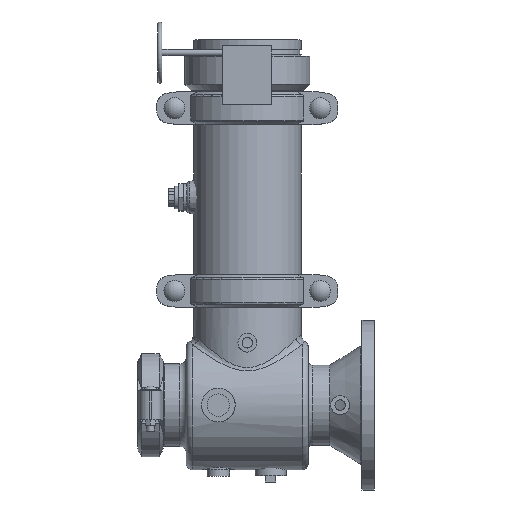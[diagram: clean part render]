
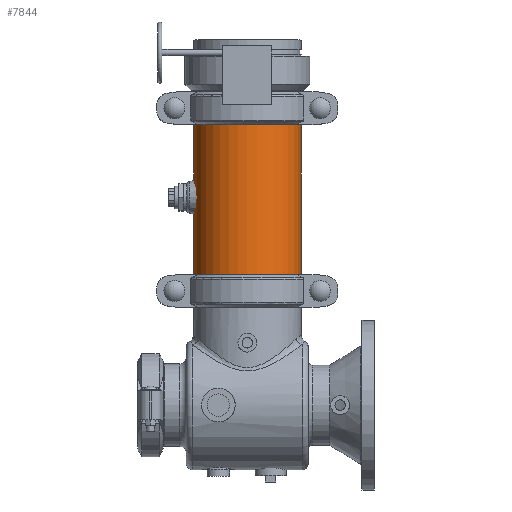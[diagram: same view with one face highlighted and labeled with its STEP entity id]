
A CAD part, top view. The second image highlights one B-rep face of the part: STEP entity #7844.
In plain terms, the highlighted cylindrical face has radius 109.537 mm (diameter 219.075 mm), a full revolution.
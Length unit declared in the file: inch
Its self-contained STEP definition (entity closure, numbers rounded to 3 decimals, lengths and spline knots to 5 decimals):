
#737=FACE_OUTER_BOUND('',#1220,.T.);
#1220=EDGE_LOOP('',(#5845,#5846,#5847,#5848,#5849,#5850));
#1730=CIRCLE('',#8669,4.3125);
#1731=CIRCLE('',#8670,4.3125);
#1732=CIRCLE('',#8672,4.3125);
#1733=CIRCLE('',#8673,4.3125);
#2162=LINE('',#13840,#2700);
#2700=VECTOR('',#10199,4.3125);
#3369=VERTEX_POINT('',#13831);
#3370=VERTEX_POINT('',#13832);
#3371=VERTEX_POINT('',#13836);
#3372=VERTEX_POINT('',#13837);
#4262=EDGE_CURVE('',#3369,#3370,#1730,.T.);
#4263=EDGE_CURVE('',#3370,#3369,#1731,.T.);
#4264=EDGE_CURVE('',#3371,#3372,#1732,.T.);
#4265=EDGE_CURVE('',#3372,#3371,#1733,.T.);
#4266=EDGE_CURVE('',#3372,#3370,#2162,.T.);
#5845=ORIENTED_EDGE('',*,*,#4264,.F.);
#5846=ORIENTED_EDGE('',*,*,#4265,.F.);
#5847=ORIENTED_EDGE('',*,*,#4266,.T.);
#5848=ORIENTED_EDGE('',*,*,#4263,.T.);
#5849=ORIENTED_EDGE('',*,*,#4262,.T.);
#5850=ORIENTED_EDGE('',*,*,#4266,.F.);
#7158=CYLINDRICAL_SURFACE('',#8671,4.3125);
#7844=ADVANCED_FACE('',(#737),#7158,.T.);
#8669=AXIS2_PLACEMENT_3D('',#13833,#10189,#10190);
#8670=AXIS2_PLACEMENT_3D('',#13834,#10191,#10192);
#8671=AXIS2_PLACEMENT_3D('',#13835,#10193,#10194);
#8672=AXIS2_PLACEMENT_3D('',#13838,#10195,#10196);
#8673=AXIS2_PLACEMENT_3D('',#13839,#10197,#10198);
#10189=DIRECTION('center_axis',(0.,-1.,0.));
#10190=DIRECTION('ref_axis',(1.,0.,0.));
#10191=DIRECTION('center_axis',(0.,-1.,0.));
#10192=DIRECTION('ref_axis',(1.,0.,0.));
#10193=DIRECTION('center_axis',(0.,-1.,0.));
#10194=DIRECTION('ref_axis',(1.,0.,0.));
#10195=DIRECTION('center_axis',(0.,-1.,0.));
#10196=DIRECTION('ref_axis',(1.,0.,0.));
#10197=DIRECTION('center_axis',(0.,-1.,0.));
#10198=DIRECTION('ref_axis',(1.,0.,0.));
#10199=DIRECTION('',(0.,1.,0.));
#13831=CARTESIAN_POINT('',(4.3125,6.002,0.));
#13832=CARTESIAN_POINT('',(-4.3125,6.002,0.));
#13833=CARTESIAN_POINT('Origin',(0.,6.002,0.));
#13834=CARTESIAN_POINT('Origin',(0.,6.002,0.));
#13835=CARTESIAN_POINT('Origin',(0.,0.,
0.));
#13836=CARTESIAN_POINT('',(4.3125,-6.002,0.));
#13837=CARTESIAN_POINT('',(-4.3125,-6.002,0.));
#13838=CARTESIAN_POINT('Origin',(0.,-6.002,0.));
#13839=CARTESIAN_POINT('Origin',(0.,-6.002,0.));
#13840=CARTESIAN_POINT('',(-4.3125,0.,0.));
